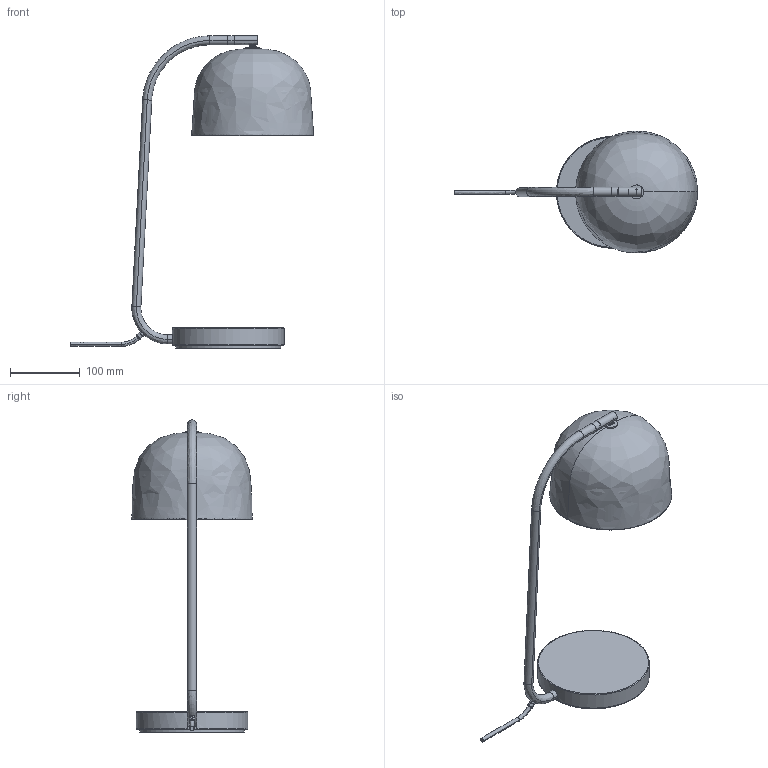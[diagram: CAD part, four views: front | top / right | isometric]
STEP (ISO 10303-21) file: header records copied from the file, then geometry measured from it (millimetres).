
FILE_DESCRIPTION(/* description */ (''),/* implementation_level */ '2;1');
FILE_NAME(/* name */ 'table lamp assembled_16-06-2016',/* time_stamp */ '2016-06-16T13:55:34+02:00',/* author */ (''),/* organization */ (''),/* preprocessor_version */ 'ST-DEVELOPER v15',/* originating_system */ '',/* authorisation */ '');
FILE_SCHEMA (('AUTOMOTIVE_DESIGN'));
Length unit declared in the file: millimetre
Products named in the file (1): Document
Bounding box: 348.48 x 174.64 x 447.68 mm (x, y, z)
Volume: 747459 mm3; surface area: 341962.6 mm2
Topology: 17 solids, 18 shells, 251 faces, 540 edges, 319 vertices
Faces by surface type: bspline 162, plane 89
Entity records: 14725 total; most frequent: CARTESIAN_POINT 11505, ORIENTED_EDGE 1058, EDGE_CURVE 529, VERTEX_POINT 320, EDGE_LOOP 281, ADVANCED_FACE 251, FACE_OUTER_BOUND 251, B_SPLINE_CURVE_WITH_KNOTS 160
